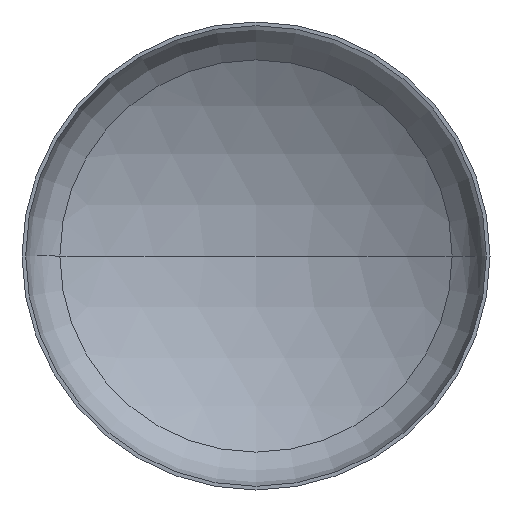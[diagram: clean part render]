
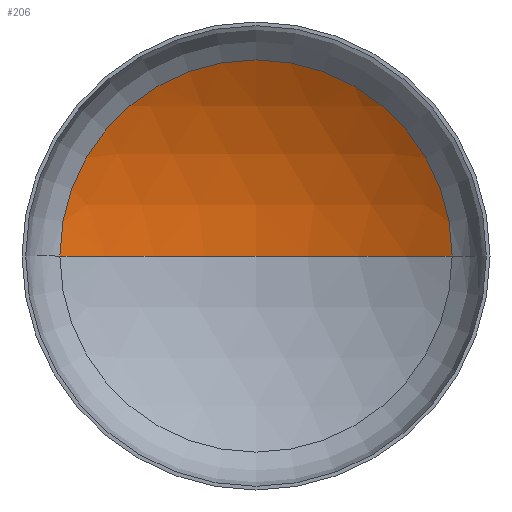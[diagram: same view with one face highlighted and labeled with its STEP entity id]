
A CAD part, front view. The second image highlights one B-rep face of the part: STEP entity #206.
In plain terms, the highlighted spherical face has radius 2240 mm.
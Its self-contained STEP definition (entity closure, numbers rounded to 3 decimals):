
#4 = CARTESIAN_POINT ( 'NONE',  ( 0., 436.303, 0. ) ) ;
#7 = CARTESIAN_POINT ( 'NONE',  ( 0., -1471.881, 0. ) ) ;
#11 = EDGE_LOOP ( 'NONE', ( #24, #19, #87 ) ) ;
#15 = VERTEX_POINT ( 'NONE', #292 ) ;
#19 = ORIENTED_EDGE ( 'NONE', *, *, #222, .T. ) ;
#24 = ORIENTED_EDGE ( 'NONE', *, *, #225, .F. ) ;
#61 = VERTEX_POINT ( 'NONE', #258 ) ;
#87 = ORIENTED_EDGE ( 'NONE', *, *, #217, .T. ) ;
#94 = VERTEX_POINT ( 'NONE', #236 ) ;
#97 = SPHERICAL_SURFACE ( 'NONE', #150, 2240. ) ;
#132 = AXIS2_PLACEMENT_3D ( 'NONE', #347, #192, #166 ) ;
#135 = AXIS2_PLACEMENT_3D ( 'NONE', #7, #365, #230 ) ;
#142 = AXIS2_PLACEMENT_3D ( 'NONE', #4, #343, #400 ) ;
#150 = AXIS2_PLACEMENT_3D ( 'NONE', #341, #336, #184 ) ;
#166 = DIRECTION ( 'NONE',  ( 1., 0., 0. ) ) ;
#183 = CIRCLE ( 'NONE', #132, 2240. ) ;
#184 = DIRECTION ( 'NONE',  ( -1., 0., 0. ) ) ;
#192 = DIRECTION ( 'NONE',  ( 0., 0., 1. ) ) ;
#206 = ADVANCED_FACE ( 'NONE', ( #339 ), #97, .F. ) ;
#217 = EDGE_CURVE ( 'NONE', #61, #94, #321, .T. ) ;
#222 = EDGE_CURVE ( 'NONE', #15, #61, #270, .T. ) ;
#225 = EDGE_CURVE ( 'NONE', #15, #94, #183, .T. ) ;
#230 = DIRECTION ( 'NONE',  ( -1., 0., 0. ) ) ;
#236 = CARTESIAN_POINT ( 'NONE',  ( -1173.215, 436.303, 0. ) ) ;
#258 = CARTESIAN_POINT ( 'NONE',  ( 1173.215, 436.303, 0. ) ) ;
#270 = CIRCLE ( 'NONE', #135, 2240. ) ;
#292 = CARTESIAN_POINT ( 'NONE',  ( 0., 768.119, 0. ) ) ;
#321 = CIRCLE ( 'NONE', #142, 1173.215 ) ;
#336 = DIRECTION ( 'NONE',  ( 0., 0., -1. ) ) ;
#339 = FACE_OUTER_BOUND ( 'NONE', #11, .T. ) ;
#341 = CARTESIAN_POINT ( 'NONE',  ( 0., -1471.881, 0. ) ) ;
#343 = DIRECTION ( 'NONE',  ( 0., -1., 0. ) ) ;
#347 = CARTESIAN_POINT ( 'NONE',  ( 0., -1471.881, 0. ) ) ;
#365 = DIRECTION ( 'NONE',  ( 0., 0., -1. ) ) ;
#400 = DIRECTION ( 'NONE',  ( 1., 0., 0. ) ) ;
